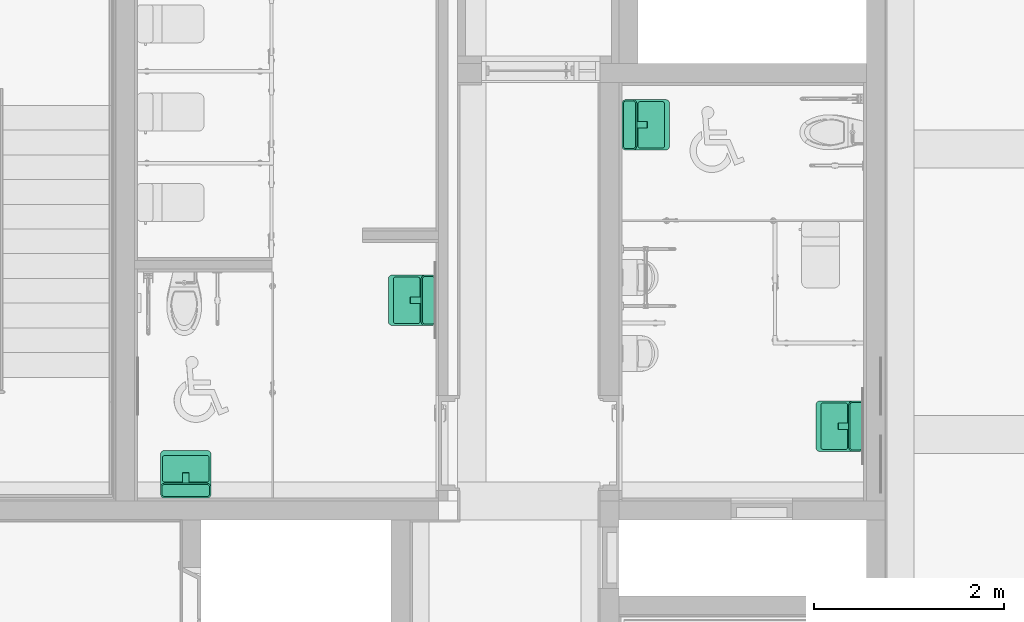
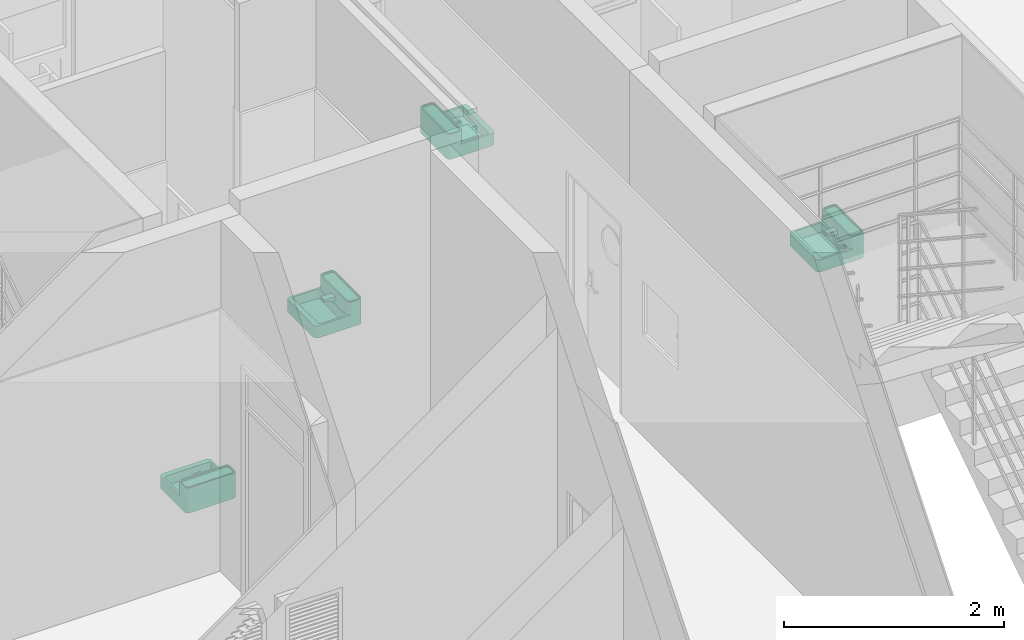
# One storey, part 71 of 76: 4 flow terminals.
"""IFC2X3 building model written with IfcOpenShell, lengths in millimetres."""

from ifc_helpers import new_model, entity, si_unit, converted_unit, derived_unit, direction, frame, origin, place, context, subcontext, project, spatial, faceted_brep, source, transform, mapped, material, material_list, type_object, type_shapes, element, save


model = new_model("IFC2X3")

# Units and contexts
model_context = context("Model", 3, precision=0.01, world=origin(), true_north=direction((6.123031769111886e-17, 1.0)))
body_context = subcontext(model_context, "Body", "Model", "MODEL_VIEW")
ifc_project = project(units=[si_unit("LENGTHUNIT", "METRE", prefix="MILLI"), si_unit("AREAUNIT", "SQUARE_METRE"), si_unit("VOLUMEUNIT", "CUBIC_METRE"), converted_unit("PLANEANGLEUNIT", "DEGREE", entity("IfcRatioMeasure", 0.017453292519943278), si_unit("PLANEANGLEUNIT", "RADIAN"), dimensions=[0, 0, 0, 0, 0, 0, 0]), si_unit("MASSUNIT", "GRAM", prefix="KILO"), derived_unit("MASSDENSITYUNIT", [(si_unit("MASSUNIT", "GRAM", prefix="KILO"), 1), (si_unit("LENGTHUNIT", "METRE"), -3)]), derived_unit("MOMENTOFINERTIAUNIT", [(si_unit("LENGTHUNIT", "METRE"), 4)]), si_unit("TIMEUNIT", "SECOND"), si_unit("FREQUENCYUNIT", "HERTZ"), si_unit("THERMODYNAMICTEMPERATUREUNIT", "DEGREE_CELSIUS"), derived_unit("THERMALTRANSMITTANCEUNIT", [(si_unit("MASSUNIT", "GRAM", prefix="KILO"), 1), (si_unit("THERMODYNAMICTEMPERATUREUNIT", "KELVIN"), -1), (si_unit("TIMEUNIT", "SECOND"), -3)]), derived_unit("VOLUMETRICFLOWRATEUNIT", [(si_unit("LENGTHUNIT", "METRE"), 3), (si_unit("TIMEUNIT", "SECOND"), -1)]), derived_unit("MASSFLOWRATEUNIT", [(si_unit("MASSUNIT", "GRAM", prefix="KILO"), 1), (si_unit("TIMEUNIT", "SECOND"), -1)]), derived_unit("ROTATIONALFREQUENCYUNIT", [(si_unit("TIMEUNIT", "SECOND"), -1)]), si_unit("ELECTRICCURRENTUNIT", "AMPERE"), si_unit("ELECTRICVOLTAGEUNIT", "VOLT"), si_unit("POWERUNIT", "WATT"), si_unit("FORCEUNIT", "NEWTON", prefix="KILO"), si_unit("ILLUMINANCEUNIT", "LUX"), si_unit("LUMINOUSFLUXUNIT", "LUMEN"), si_unit("LUMINOUSINTENSITYUNIT", "CANDELA"), derived_unit("USERDEFINED", [(si_unit("MASSUNIT", "GRAM", prefix="KILO"), -1), (si_unit("LENGTHUNIT", "METRE"), -2), (si_unit("TIMEUNIT", "SECOND"), 3), (si_unit("LUMINOUSFLUXUNIT", "LUMEN"), 1)]), derived_unit("SOUNDPOWERUNIT", [(si_unit("MASSUNIT", "GRAM", prefix="KILO"), 1), (si_unit("LENGTHUNIT", "METRE"), 2), (si_unit("TIMEUNIT", "SECOND"), -3)]), derived_unit("SOUNDPRESSUREUNIT", [(si_unit("MASSUNIT", "GRAM", prefix="KILO"), 1), (si_unit("LENGTHUNIT", "METRE"), -1), (si_unit("TIMEUNIT", "SECOND"), -2)]), derived_unit("LINEARVELOCITYUNIT", [(si_unit("LENGTHUNIT", "METRE"), 1), (si_unit("TIMEUNIT", "SECOND"), -1)]), si_unit("PRESSUREUNIT", "PASCAL"), derived_unit("USERDEFINED", [(si_unit("LENGTHUNIT", "METRE"), -2), (si_unit("MASSUNIT", "GRAM", prefix="KILO"), 1), (si_unit("TIMEUNIT", "SECOND"), -2)]), derived_unit("LINEARFORCEUNIT", [(si_unit("MASSUNIT", "GRAM", prefix="KILO"), 1), (si_unit("LENGTHUNIT", "METRE"), 1), (si_unit("TIMEUNIT", "SECOND"), -2), (si_unit("LENGTHUNIT", "METRE"), -1)]), derived_unit("PLANARFORCEUNIT", [(si_unit("MASSUNIT", "GRAM", prefix="KILO"), 1), (si_unit("LENGTHUNIT", "METRE"), 1), (si_unit("TIMEUNIT", "SECOND"), -2), (si_unit("LENGTHUNIT", "METRE"), -2)])], contexts=[model_context])

# Site, building, storey, space
site_placement = place(None, frame((-14167.972527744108, -657.2125860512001, 0.0)))
site = spatial("IfcSite", under=ifc_project, at=site_placement, Name="Default", CompositionType="ELEMENT")
building_placement = place(site_placement, origin())
building = spatial("IfcBuilding", under=site, at=building_placement, Name="Sample Building", CompositionType="ELEMENT")
storey_placement = place(building_placement, frame((0.0, 0.0, 9300.0)))
storey = spatial("IfcBuildingStorey", under=building, at=storey_placement, Name="지상 3층", CompositionType="ELEMENT", Elevation=9300.000000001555)
space_1_placement = place(storey_placement, origin())
space_1 = spatial("IfcSpace", under=storey, at=space_1_placement, Name="203", CompositionType="ELEMENT", InteriorOrExteriorSpace="INTERNAL")

# Flow terminal
ifc_material_1 = material(Name="KBIMS-스테인리스 스틸_도금")
ifc_material_2 = material(Name="KBIMS-도기")
ifc_material_list_1 = material_list([ifc_material_1, ifc_material_2])
ifc_material_list_2 = material_list([ifc_material_1, ifc_material_2])
distribution_element_type = type_object("IfcDistributionElementType", Name="PF411-평면붙임형 세면기:PF411-평면붙임형 세면기", material=ifc_material_list_2)
shared_shape = source(origin(), body_context, "Body", "Brep", [
    faceted_brep([(300.325836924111, 231.5952722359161, 201.9113756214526), (300.325836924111, 231.59527223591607, 190.0), (300.325836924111, 346.5952722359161, 163.45015802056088), (300.325836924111, 346.5952722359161, 210.0), (300.325836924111, 239.68389661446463, 210.0), (300.325836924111, 237.59040657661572, 209.724386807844), (300.325836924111, 235.63958442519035, 208.9163298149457), (300.325836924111, 233.96437546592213, 207.63089676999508), (300.325836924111, 232.67894242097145, 205.9556878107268), (300.325836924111, 231.87088542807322, 204.00486565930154), (232.86470754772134, 231.5952722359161, 201.9113756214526), (232.86470754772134, 231.87088542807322, 204.00486565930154), (232.86470754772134, 232.67894242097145, 205.9556878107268), (232.86470754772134, 233.96437546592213, 207.63089676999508), (232.86470754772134, 235.63958442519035, 208.9163298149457), (232.86470754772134, 237.59040657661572, 209.724386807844), (232.86470754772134, 239.68389661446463, 210.0), (232.86470754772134, 346.5952722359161, 210.0), (232.86470754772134, 346.5952722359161, 163.45015802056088), (232.86470754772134, 231.59527223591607, 190.0)], [[[0, 1, 2, 3, 4, 5, 6, 7, 8, 9]], [[10, 11, 12, 13, 14, 15, 16, 17, 18, 19]], [[5, 4, 16, 15]], [[6, 5, 15, 14]], [[13, 7, 6, 14]], [[9, 8, 12, 11]], [[9, 11, 10, 0]], [[13, 12, 8, 7]], [[1, 0, 10, 19]], [[2, 1, 19, 18]], [[3, 2, 18, 17]], [[4, 3, 17, 16]]]),
    faceted_brep([(526.236288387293, 481.59527223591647, 280.0), (519.8795434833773, 489.87954348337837, 280.0), (513.2459073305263, 474.09527223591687, 280.0), (515.743417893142, 468.0657483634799, 280.0), (530.2323052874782, 471.94803404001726, 280.0), (509.2729417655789, 479.27294176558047, 280.0), (511.59527223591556, 496.2362883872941, 280.0), (504.0952722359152, 483.2459073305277, 280.0), (501.9480340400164, 500.23230528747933, 280.0), (498.0657483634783, 485.74341789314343, 280.0), (491.5952722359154, 501.5952722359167, 280.0), (491.5952722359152, 486.5952722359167, 280.0), (41.59527223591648, 501.5952722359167, 280.0), (41.59527223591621, 486.5952722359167, 280.0), (35.124796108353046, 485.7434178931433, 280.0), (31.242510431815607, 500.2323052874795, 280.0), (29.095272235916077, 483.2459073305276, 280.0), (21.59527223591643, 496.23628838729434, 280.0), (23.9176027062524, 479.2729417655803, 280.0), (13.311000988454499, 489.87954348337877, 280.0), (19.944637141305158, 474.0952722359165, 280.0), (6.95425608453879, 481.59527223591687, 280.0), (17.447126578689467, 468.06574836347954, 280.0), (2.9582391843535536, 471.94803404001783, 280.0), (1.5952722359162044, 461.5952722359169, 280.0), (16.595272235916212, 461.5952722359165, 280.0), (16.595272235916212, 386.59527223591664, 280.0), (1.5952722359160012, 386.5952722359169, 280.0), (17.447126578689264, 380.12479610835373, 280.0), (2.958239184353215, 376.24251043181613, 280.0), (6.954256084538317, 366.595272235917, 280.0), (19.94463714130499, 374.09527223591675, 280.0), (13.311000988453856, 358.3110009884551, 280.0), (23.917602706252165, 368.9176027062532, 280.0), (21.59527223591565, 351.9542560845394, 280.0), (29.095272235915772, 364.94463714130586, 280.0), (31.24251043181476, 347.95823918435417, 280.0), (35.12479610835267, 362.44712657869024, 280.0), (41.59527223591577, 346.59527223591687, 280.0), (41.59527223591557, 361.5952722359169, 280.0), (491.5952722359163, 361.5952722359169, 280.0), (491.595272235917, 346.59527223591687, 280.0), (498.0657483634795, 362.44712657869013, 280.0), (501.9480340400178, 347.9582391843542, 280.0), (504.09527223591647, 364.94463714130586, 280.0), (511.59527223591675, 351.9542560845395, 280.0), (509.2729417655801, 368.91760270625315, 280.0), (519.8795434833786, 358.31100098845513, 280.0), (513.2459073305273, 374.0952722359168, 280.0), (526.236288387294, 366.59527223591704, 280.0), (515.743417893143, 380.1247961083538, 280.0), (530.2323052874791, 376.24251043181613, 280.0), (531.5952722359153, 386.59527223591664, 280.0), (516.5952722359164, 386.59527223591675, 280.0), (531.5952722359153, 461.5952722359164, 280.0), (516.5952722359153, 461.5952722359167, 280.0), (13.311000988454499, 489.87954348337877, 0.0), (21.59527223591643, 496.23628838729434, 0.0), (31.242510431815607, 500.2323052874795, 0.0), (41.59527223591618, 501.5952722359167, 0.0), (491.5952722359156, 501.5952722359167, 0.0), (501.9480340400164, 500.23230528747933, 0.0), (511.59527223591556, 496.2362883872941, 0.0), (519.8795434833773, 489.87954348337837, 0.0), (526.236288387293, 481.59527223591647, 0.0), (530.2323052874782, 471.94803404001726, 0.0), (531.5952722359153, 461.5952722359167, 0.0), (531.5952722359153, 41.59527223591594, 0.0), (530.232305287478, 31.2425104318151, 0.0), (526.2362883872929, 21.595272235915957, 0.0), (519.8795434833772, 13.31100098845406, 0.0), (511.5952722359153, 6.954256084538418, 0.0), (501.9480340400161, 2.958239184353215, 0.0), (491.5952722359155, 1.5952722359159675, 0.0), (41.59527223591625, 1.5952722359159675, 0.0), (31.242510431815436, 2.9582391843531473, 0.0), (21.595272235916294, 6.9542560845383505, 0.0), (13.311000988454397, 13.311000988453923, 0.0), (6.954256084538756, 21.59527223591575, 0.0), (2.95823918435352, 31.242510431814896, 0.0), (1.5952722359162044, 41.5952722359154, 0.0), (1.5952722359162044, 461.595272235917, 0.0), (2.9582391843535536, 471.94803404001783, 0.0), (6.95425608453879, 481.59527223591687, 0.0), (1.5952722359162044, 41.59527223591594, 135.0), (1.5952722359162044, 386.59527223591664, 135.0), (2.9582391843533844, 31.242510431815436, 135.0), (6.954256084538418, 21.59527223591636, 135.0), (13.311000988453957, 13.311000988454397, 135.0), (21.595272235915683, 6.954256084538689, 135.0), (31.242510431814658, 2.958239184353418, 135.0), (41.59527223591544, 1.5952722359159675, 135.0), (491.59527223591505, 1.5952722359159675, 135.0), (501.9480340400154, 2.9582391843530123, 135.0), (511.59527223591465, 6.954256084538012, 135.0), (519.8795434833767, 13.31100098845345, 135.0), (526.2362883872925, 21.59527223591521, 135.0), (530.2323052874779, 31.242510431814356, 135.0), (531.5952722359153, 41.59527223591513, 135.0), (531.5952722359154, 386.59527223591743, 135.0), (22.457263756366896, 313.81753553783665, 135.0), (6.954256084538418, 366.59527223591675, 135.0), (2.958239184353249, 376.2425104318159, 135.0), (13.31100098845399, 358.3110009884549, 135.0), (23.138747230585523, 318.993916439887, 135.0), (22.457263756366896, 75.92091166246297, 135.0), (25.13675568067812, 323.8175355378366, 135.0), (21.59527223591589, 351.9542560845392, 135.0), (28.315128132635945, 327.9596711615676, 135.0), (31.242510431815, 347.9582391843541, 135.0), (32.45726375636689, 331.13804361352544, 135.0), (37.28088285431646, 333.13605206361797, 135.0), (41.59527223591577, 346.59527223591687, 135.0), (42.45726375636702, 333.8175355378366, 135.0), (266.5952722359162, 333.8175355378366, 135.0), (491.5952722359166, 346.59527223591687, 135.0), (490.73328071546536, 333.8175355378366, 135.0), (495.90966161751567, 333.136052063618, 135.0), (501.9480340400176, 347.9582391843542, 135.0), (500.73328071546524, 331.13804361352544, 135.0), (504.8754163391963, 327.9596711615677, 135.0), (511.59527223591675, 351.9542560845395, 135.0), (508.05378879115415, 323.8175355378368, 135.0), (519.8795434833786, 358.31100098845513, 135.0), (510.0517972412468, 318.9939164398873, 135.0), (510.7332807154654, 313.81753553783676, 135.0), (526.236288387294, 366.5952722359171, 135.0), (530.2323052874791, 376.2425104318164, 135.0), (510.7332807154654, 75.92091166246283, 135.0), (510.0517972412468, 70.74453076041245, 135.0), (508.05378879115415, 65.92091166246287, 135.0), (504.8754163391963, 61.77877603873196, 135.0), (500.73328071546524, 58.60040358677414, 135.0), (495.90966161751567, 56.60239513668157, 135.0), (490.73328071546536, 55.920911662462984, 135.0), (266.5952722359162, 55.920911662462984, 135.0), (42.457263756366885, 55.920911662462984, 135.0), (37.28088285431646, 56.60239513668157, 135.0), (32.45726375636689, 58.600403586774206, 135.0), (28.315128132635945, 61.778776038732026, 135.0), (25.13675568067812, 65.92091166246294, 135.0), (23.138747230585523, 70.74453076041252, 135.0), (35.124796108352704, 362.44712657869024, 263.25881706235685), (41.59527223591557, 361.5952722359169, 263.25881706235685), (491.5952722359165, 361.5952722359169, 263.25881706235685), (498.06574836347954, 362.44712657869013, 263.25881706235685), (504.09527223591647, 364.94463714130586, 263.25881706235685), (509.2729417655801, 368.91760270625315, 263.25881706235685), (513.2459073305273, 374.09527223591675, 263.25881706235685), (515.743417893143, 380.1247961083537, 263.25881706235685), (516.5952722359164, 386.59527223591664, 263.25881706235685), (516.5952722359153, 461.5952722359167, 263.25881706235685), (515.7434178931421, 468.0657483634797, 263.25881706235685), (513.2459073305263, 474.0952722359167, 263.25881706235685), (509.27294176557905, 479.27294176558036, 263.25881706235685), (504.0952722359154, 483.24590733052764, 263.25881706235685), (498.0657483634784, 485.7434178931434, 263.25881706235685), (491.5952722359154, 486.5952722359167, 263.25881706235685), (41.59527223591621, 486.5952722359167, 263.25881706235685), (35.12479610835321, 485.7434178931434, 263.25881706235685), (29.095272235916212, 483.24590733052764, 263.25881706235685), (23.917602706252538, 479.27294176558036, 263.25881706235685), (19.94463714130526, 474.0952722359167, 263.25881706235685), (17.4471265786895, 468.06574836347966, 263.25881706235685), (16.595272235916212, 461.5952722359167, 263.25881706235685), (16.59527223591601, 386.59527223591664, 263.25881706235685), (17.447126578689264, 380.12479610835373, 263.25881706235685), (19.94463714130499, 374.09527223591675, 263.25881706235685), (23.917602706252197, 368.91760270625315, 263.25881706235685), (29.095272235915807, 364.94463714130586, 263.25881706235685), (28.31512813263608, 327.95967116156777, 30.152650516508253), (25.136755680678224, 323.8175355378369, 30.152650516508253), (23.13874723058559, 318.9939164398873, 30.152650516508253), (22.457263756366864, 313.81753553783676, 30.152650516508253), (22.457263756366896, 75.92091166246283, 30.152650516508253), (23.138747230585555, 70.74453076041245, 30.152650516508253), (25.136755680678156, 65.92091166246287, 30.152650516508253), (28.315128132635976, 61.77877603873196, 30.152650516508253), (32.45726375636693, 58.60040358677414, 30.152650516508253), (37.280882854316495, 56.60239513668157, 30.152650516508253), (42.457263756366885, 55.920911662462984, 30.152650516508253), (266.5952722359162, 55.920911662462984, 30.152650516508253), (490.7332807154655, 55.920911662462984, 30.152650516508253), (495.90966161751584, 56.60239513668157, 30.152650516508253), (500.7332807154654, 58.60040358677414, 30.152650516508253), (504.8754163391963, 61.77877603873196, 30.152650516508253), (508.05378879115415, 65.92091166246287, 30.152650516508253), (510.0517972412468, 70.74453076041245, 30.152650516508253), (510.7332807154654, 75.92091166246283, 30.152650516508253), (510.7332807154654, 313.81753553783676, 30.152650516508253), (510.0517972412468, 318.99391643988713, 30.152650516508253), (508.05378879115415, 323.8175355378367, 30.152650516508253), (504.8754163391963, 327.95967116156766, 30.152650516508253), (500.7332807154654, 331.13804361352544, 30.152650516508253), (495.90966161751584, 333.13605206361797, 30.152650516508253), (490.7332807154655, 333.8175355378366, 30.152650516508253), (266.5952722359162, 333.8175355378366, 30.152650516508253), (42.45726375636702, 333.8175355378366, 30.152650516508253), (37.28088285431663, 333.136052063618, 30.152650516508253), (32.45726375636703, 331.13804361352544, 30.152650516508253)], [[[0, 1, 2]], [[0, 2, 3]], [[4, 0, 3]], [[2, 1, 5]], [[6, 5, 1]], [[7, 5, 6]], [[7, 6, 8]], [[7, 8, 9]], [[9, 8, 10]], [[11, 9, 10]], [[10, 12, 11]], [[12, 13, 11]], [[14, 13, 12]], [[14, 12, 15]], [[14, 15, 16]], [[16, 15, 17]], [[18, 16, 17]], [[17, 19, 18]], [[19, 20, 18]], [[20, 19, 21]], [[20, 21, 22]], [[22, 21, 23]], [[23, 24, 22]], [[25, 22, 24]], [[25, 24, 26]], [[27, 26, 24]], [[28, 26, 27]], [[28, 27, 29]], [[28, 29, 30]], [[30, 31, 28]], [[32, 31, 30]], [[31, 32, 33]], [[33, 32, 34]], [[35, 33, 34]], [[35, 34, 36]], [[37, 35, 36]], [[38, 37, 36]], [[39, 37, 38]], [[39, 38, 40]], [[41, 40, 38]], [[40, 41, 42]], [[41, 43, 42]], [[44, 42, 43]], [[45, 44, 43]], [[46, 44, 45]], [[46, 45, 47]], [[47, 48, 46]], [[48, 47, 49]], [[50, 48, 49]], [[51, 50, 49]], [[52, 50, 51]], [[52, 53, 50]], [[53, 52, 54]], [[54, 4, 3]], [[3, 55, 54]], [[54, 55, 53]], [[56, 57, 58, 59, 60, 61, 62, 63, 64, 65, 66, 67, 68, 69, 70, 71, 72, 73, 74, 75, 76, 77, 78, 79, 80, 81, 82, 83]], [[12, 10, 60, 59]], [[15, 58, 57, 17]], [[17, 57, 56, 19]], [[59, 58, 15, 12]], [[21, 83, 82, 23]], [[23, 82, 81, 24]], [[19, 56, 83, 21]], [[24, 81, 80, 84, 85, 27]], [[86, 79, 78, 87]], [[87, 78, 77, 88]], [[80, 79, 86, 84]], [[89, 76, 75, 90]], [[90, 75, 74, 91]], [[88, 77, 76, 89]], [[92, 91, 74, 73]], [[93, 72, 71, 94]], [[94, 71, 70, 95]], [[73, 72, 93, 92]], [[96, 69, 68, 97]], [[97, 68, 67, 98]], [[95, 70, 69, 96]], [[54, 52, 99, 98, 67, 66]], [[4, 65, 64, 0]], [[0, 64, 63, 1]], [[66, 65, 4, 54]], [[6, 62, 61, 8]], [[8, 61, 60, 10]], [[1, 63, 62, 6]], [[100, 101, 102]], [[101, 100, 103]], [[103, 100, 104]], [[84, 100, 102]], [[100, 84, 105]], [[106, 103, 104]], [[106, 107, 103]], [[108, 107, 106]], [[109, 107, 108]], [[110, 109, 108]], [[109, 110, 111]], [[112, 109, 111]], [[113, 112, 111]], [[114, 112, 113]], [[115, 112, 114]], [[114, 116, 115]], [[115, 116, 117]], [[118, 115, 117]], [[119, 118, 117]], [[118, 119, 120]], [[120, 121, 118]], [[121, 120, 122]], [[122, 123, 121]], [[123, 122, 124]], [[123, 124, 125]], [[126, 123, 125]], [[125, 127, 126]], [[127, 125, 98]], [[128, 98, 125]], [[98, 128, 129]], [[129, 130, 98]], [[98, 130, 131]], [[131, 132, 98]], [[132, 97, 98]], [[132, 133, 97]], [[97, 133, 96]], [[96, 133, 95]], [[94, 95, 133]], [[134, 94, 133]], [[93, 94, 134]], [[93, 134, 92]], [[134, 135, 92]], [[92, 135, 91]], [[91, 135, 136]], [[136, 90, 91]], [[90, 136, 89]], [[137, 89, 136]], [[89, 137, 88]], [[137, 87, 88]], [[137, 86, 87]], [[138, 86, 137]], [[138, 84, 86]], [[139, 84, 138]], [[140, 84, 139]], [[140, 141, 84]], [[141, 105, 84]], [[98, 99, 127]], [[84, 102, 85]], [[115, 41, 38, 112]], [[109, 112, 38, 36]], [[107, 109, 36, 34]], [[34, 32, 103, 107]], [[102, 101, 30, 29]], [[85, 102, 29, 27]], [[32, 30, 101, 103]], [[127, 99, 52, 51]], [[126, 127, 51, 49]], [[49, 47, 123, 126]], [[118, 121, 45, 43]], [[115, 118, 43, 41]], [[47, 45, 121, 123]], [[142, 143, 144, 145, 146, 147, 148, 149, 150, 151, 152, 153, 154, 155, 156, 157, 158, 159, 160, 161, 162, 163, 164, 165, 166, 167, 168, 169]], [[164, 25, 26, 165]], [[166, 165, 26, 28]], [[167, 166, 28, 31]], [[167, 31, 33, 168]], [[169, 168, 33, 35]], [[142, 169, 35, 37]], [[142, 37, 39, 143]], [[143, 39, 40, 144]], [[145, 144, 40, 42]], [[146, 145, 42, 44]], [[146, 44, 46, 147]], [[148, 147, 46, 48]], [[149, 148, 48, 50]], [[149, 50, 53, 150]], [[150, 53, 55, 151]], [[152, 151, 55, 3]], [[153, 152, 3, 2]], [[153, 2, 5, 154]], [[155, 154, 5, 7]], [[9, 156, 155, 7]], [[9, 11, 157, 156]], [[157, 11, 13, 158]], [[159, 158, 13, 14]], [[160, 159, 14, 16]], [[160, 16, 18, 161]], [[162, 161, 18, 20]], [[163, 162, 20, 22]], [[163, 22, 25, 164]], [[170, 171, 172, 173, 174, 175, 176, 177, 178, 179, 180, 181, 182, 183, 184, 185, 186, 187, 188, 189, 190, 191, 192, 193, 194, 195, 196, 197, 198, 199]], [[196, 195, 116, 114, 113, 197]], [[199, 198, 111, 110]], [[170, 199, 110, 108]], [[113, 111, 198, 197]], [[172, 171, 106, 104]], [[173, 172, 104, 100]], [[106, 171, 170, 108]], [[173, 100, 105, 174]], [[176, 175, 141, 140]], [[177, 176, 140, 139]], [[105, 141, 175, 174]], [[179, 178, 138, 137]], [[180, 179, 137, 136]], [[138, 178, 177, 139]], [[180, 136, 135, 134, 182, 181]], [[184, 183, 133, 132]], [[185, 184, 132, 131]], [[134, 133, 183, 182]], [[187, 186, 130, 129]], [[188, 187, 129, 128]], [[130, 186, 185, 131]], [[188, 128, 125, 189]], [[122, 120, 192, 191]], [[124, 190, 189, 125]], [[191, 190, 124, 122]], [[194, 193, 119, 117]], [[195, 194, 117, 116]], [[119, 193, 192, 120]]]),
])
type_shapes(distribution_element_type, [shared_shape])
flow_terminal_1_placement = place(space_1_placement, frame((40236.3684827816, 23508.80757406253, 595.0), z_axis=(0.0, 0.0, 1.0), x_axis=(0.0, -1.0, 0.0)))
element("IfcFlowTerminal", 1, at=flow_terminal_1_placement, inside=space_1, type_object=distribution_element_type, material=ifc_material_list_1, Name="PF411-평면붙임형 세면기:PF411-평면붙임형 세면기", ObjectType="PF411-평면붙임형 세면기:PF411-평면붙임형 세면기", context=body_context, shape_type="MappedRepresentation", body=[
    mapped(shared_shape, transform((0.0, 0.0, 0.0), scale=1.0)),
])

# Space
space_2_placement = place(storey_placement, origin())
space_2 = spatial("IfcSpace", under=storey, at=space_2_placement, Name="202", CompositionType="ELEMENT", InteriorOrExteriorSpace="INTERNAL")

# Flow terminals
ifc_material_list_3 = material_list([ifc_material_1, ifc_material_2])
flow_terminal_2_placement = place(space_2_placement, frame((33872.799922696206, 22988.807575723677, 635.0), z_axis=(0.0, 0.0, 1.0), x_axis=(-1.0, 0.0, 0.0)))
element("IfcFlowTerminal", 2, at=flow_terminal_2_placement, inside=space_2, type_object=distribution_element_type, material=ifc_material_list_3, Name="PF411-평면붙임형 세면기:PF411-평면붙임형 세면기", ObjectType="PF411-평면붙임형 세면기:PF411-평면붙임형 세면기", context=body_context, shape_type="MappedRepresentation", body=[
    mapped(shared_shape, transform((0.0, 0.0, 0.0), scale=1.0)),
])
ifc_material_list_4 = material_list([ifc_material_1, ifc_material_2])
flow_terminal_3_placement = place(space_2_placement, frame((35736.36848278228, 24833.90833582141, 635.0), z_axis=(0.0, 0.0, 1.0), x_axis=(0.0, -1.0, 0.0)))
element("IfcFlowTerminal", 3, at=flow_terminal_3_placement, inside=space_2, type_object=distribution_element_type, material=ifc_material_list_4, Name="PF411-평면붙임형 세면기:PF411-평면붙임형 세면기", ObjectType="PF411-평면붙임형 세면기:PF411-평면붙임형 세면기", context=body_context, shape_type="MappedRepresentation", body=[
    mapped(shared_shape, transform((0.0, 0.0, 0.0), scale=1.0)),
])
ifc_material_list_5 = material_list([ifc_material_1, ifc_material_2])
flow_terminal_4_placement = place(space_1_placement, frame((38699.559070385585, 26147.154047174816, 635.0), z_axis=(0.0, 0.0, 1.0), x_axis=(0.0, 1.0, 0.0)))
element("IfcFlowTerminal", 4, at=flow_terminal_4_placement, inside=space_1, type_object=distribution_element_type, material=ifc_material_list_5, Name="PF411-평면붙임형 세면기:PF411-평면붙임형 세면기", ObjectType="PF411-평면붙임형 세면기:PF411-평면붙임형 세면기", context=body_context, shape_type="MappedRepresentation", body=[
    mapped(shared_shape, transform((0.0, 0.0, 0.0), scale=1.0)),
])

save(model, "model.ifc")
